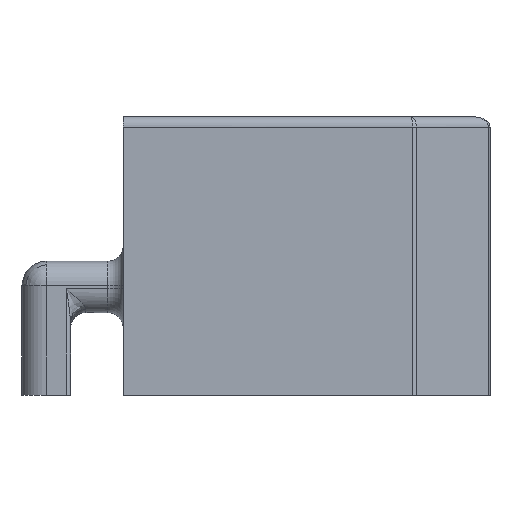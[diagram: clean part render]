
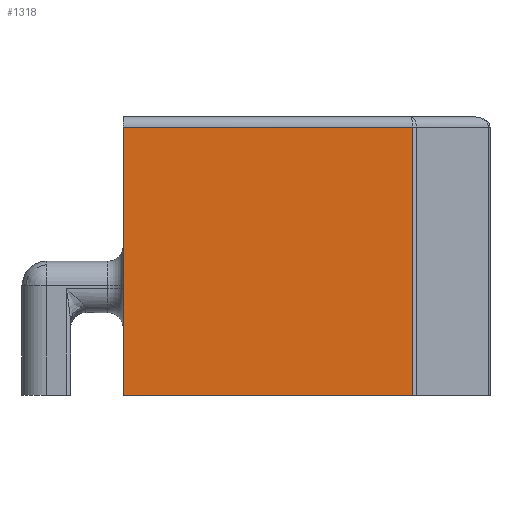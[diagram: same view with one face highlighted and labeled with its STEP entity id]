
A CAD part, left-side view. The second image highlights one B-rep face of the part: STEP entity #1318.
In plain terms, the highlighted planar face has unit normal (-1, 0, 0).
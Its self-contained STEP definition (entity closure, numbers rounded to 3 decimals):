
#51=PLANE('',#1435);
#101=FACE_OUTER_BOUND('',#185,.T.);
#185=EDGE_LOOP('',(#973,#974,#975,#976));
#332=LINE('',#2132,#454);
#339=LINE('',#2146,#461);
#340=LINE('',#2150,#462);
#341=LINE('',#2151,#463);
#454=VECTOR('',#1653,10.);
#461=VECTOR('',#1668,10.);
#462=VECTOR('',#1673,10.);
#463=VECTOR('',#1674,10.);
#595=VERTEX_POINT('',#2124);
#597=VERTEX_POINT('',#2130);
#600=VERTEX_POINT('',#2145);
#601=VERTEX_POINT('',#2149);
#732=EDGE_CURVE('',#597,#595,#332,.T.);
#739=EDGE_CURVE('',#595,#600,#339,.T.);
#741=EDGE_CURVE('',#601,#597,#340,.T.);
#742=EDGE_CURVE('',#600,#601,#341,.T.);
#973=ORIENTED_EDGE('',*,*,#732,.F.);
#974=ORIENTED_EDGE('',*,*,#741,.F.);
#975=ORIENTED_EDGE('',*,*,#742,.F.);
#976=ORIENTED_EDGE('',*,*,#739,.F.);
#1318=ADVANCED_FACE('',(#101),#51,.T.);
#1435=AXIS2_PLACEMENT_3D('',#2148,#1671,#1672);
#1653=DIRECTION('',(0.,-1.,0.));
#1668=DIRECTION('',(0.,0.,-1.));
#1671=DIRECTION('center_axis',(-1.,0.,0.));
#1672=DIRECTION('ref_axis',(0.,-1.,0.));
#1673=DIRECTION('',(0.,0.,1.));
#1674=DIRECTION('',(0.,1.,0.));
#2124=CARTESIAN_POINT('',(-25.2,-9.45,26.));
#2130=CARTESIAN_POINT('',(-25.2,18.6,26.));
#2132=CARTESIAN_POINT('',(-25.2,9.663,26.));
#2145=CARTESIAN_POINT('',(-25.2,-9.45,0.));
#2146=CARTESIAN_POINT('',(-25.2,-9.45,0.));
#2148=CARTESIAN_POINT('Origin',(-25.2,18.6,0.));
#2149=CARTESIAN_POINT('',(-25.2,18.6,0.));
#2150=CARTESIAN_POINT('',(-25.2,18.6,0.));
#2151=CARTESIAN_POINT('',(-25.2,9.657,0.));
